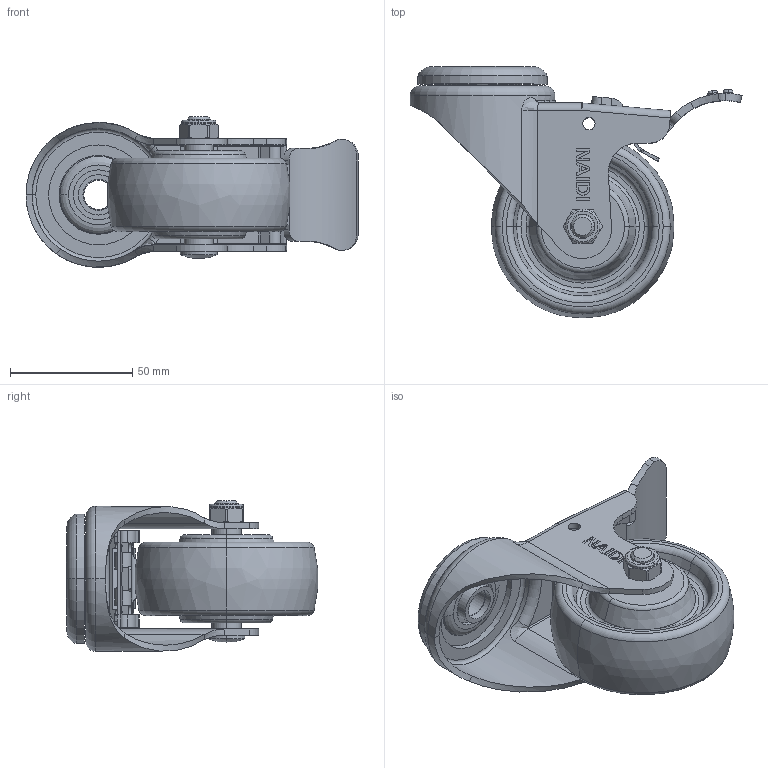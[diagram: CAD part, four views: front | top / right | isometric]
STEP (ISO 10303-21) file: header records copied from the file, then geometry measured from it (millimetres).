
FILE_DESCRIPTION((''),'2;1');
FILE_NAME('C54183L_ASM','2024-10-10T',('Lenovo'),(''),'PRO/ENGINEER BY PARAMETRIC TECHNOLOGY CORPORATION, 2010280','PRO/ENGINEER BY PARAMETRIC TECHNOLOGY CORPORATION, 2010280','');
FILE_SCHEMA(('CONFIG_CONTROL_DESIGN'));
Length unit declared in the file: millimetre
Products named in the file (10): C543-12; 540-27; C540-03; C543-906; 500-54; 5710-020; 5710-031; 540-14; 540-13; C54183L_ASM
Assembly tree (9 placements, depth 2):
  C54183L_ASM
    C543-12
    540-27
    C540-03
    C543-906
    500-54
    5710-020
    5710-031
    540-14
    540-13
Bounding box: 135.81 x 102.81 x 61.65 mm (x, y, z)
Volume: 168454.9 mm3; surface area: 63623.6 mm2
Topology: 15 solids, 15 shells, 505 faces, 1150 edges, 687 vertices
Faces by surface type: plane 228, cylinder 154, torus 38, bspline 34, cone 32, extrusion 13, sphere 6
Entity records: 17047 total; most frequent: CARTESIAN_POINT 5591, DIRECTION 2369, ORIENTED_EDGE 2296, EDGE_CURVE 1148, AXIS2_PLACEMENT_3D 865, VERTEX_POINT 687, VECTOR 639, LINE 626
